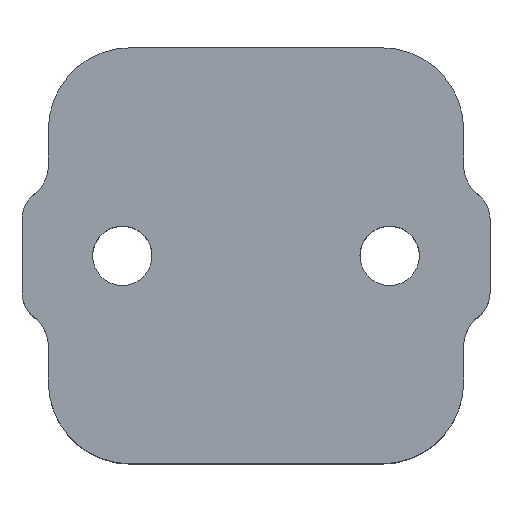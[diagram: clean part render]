
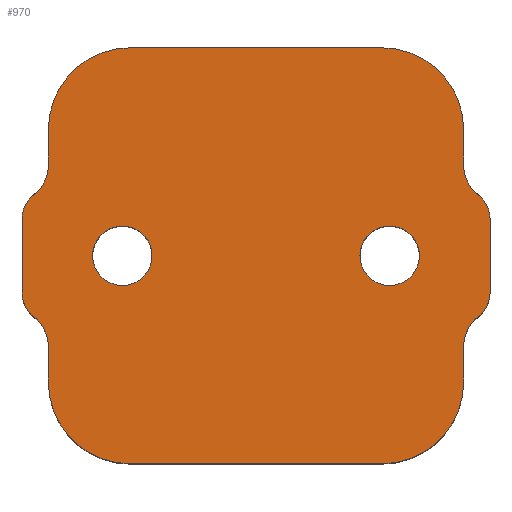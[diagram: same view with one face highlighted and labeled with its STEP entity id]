
A CAD part, top view. The second image highlights one B-rep face of the part: STEP entity #970.
In plain terms, the highlighted planar face has unit normal (0, 0, 1).
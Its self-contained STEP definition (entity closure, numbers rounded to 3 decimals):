
#90=CARTESIAN_POINT('',(0.95,2.8,3.));
#91=VERTEX_POINT('',#90);
#106=CARTESIAN_POINT('',(1.35,2.8,3.));
#107=DIRECTION('',(0.,0.,-1.));
#108=DIRECTION('',(-1.,0.,0.));
#109=AXIS2_PLACEMENT_3D('',#106,#107,#108);
#110=CIRCLE('',#109,0.4);
#111=EDGE_CURVE('',#91,#91,#110,.T.);
#123=CARTESIAN_POINT('',(4.55,2.8,3.));
#124=VERTEX_POINT('',#123);
#139=CARTESIAN_POINT('',(4.95,2.8,3.));
#140=DIRECTION('',(0.,0.,-1.));
#141=DIRECTION('',(-1.,0.,0.));
#142=AXIS2_PLACEMENT_3D('',#139,#140,#141);
#143=CIRCLE('',#142,0.4);
#144=EDGE_CURVE('',#124,#124,#143,.T.);
#154=CARTESIAN_POINT('',(6.007,3.779,3.));
#155=VERTEX_POINT('',#154);
#164=CARTESIAN_POINT('',(6.177,3.598,3.));
#165=VERTEX_POINT('',#164);
#166=CARTESIAN_POINT('',(6.445,4.02,3.));
#167=DIRECTION('',(-0.,-0.,-1.));
#168=DIRECTION('',(1.,0.,-0.));
#169=AXIS2_PLACEMENT_3D('',#166,#167,#168);
#170=CIRCLE('',#169,0.5);
#171=EDGE_CURVE('',#165,#155,#170,.T.);
#205=CARTESIAN_POINT('',(6.114,3.638,3.));
#206=VERTEX_POINT('',#205);
#207=CARTESIAN_POINT('',(6.114,3.638,3.));
#208=DIRECTION('',(0.845,-0.535,0.));
#209=VECTOR('',#208,0.075);
#210=LINE('',#207,#209);
#211=EDGE_CURVE('',#206,#165,#210,.T.);
#237=CARTESIAN_POINT('',(6.3,3.3,3.));
#238=VERTEX_POINT('',#237);
#239=CARTESIAN_POINT('',(5.9,3.3,3.));
#240=DIRECTION('',(0.,0.,1.));
#241=DIRECTION('',(1.,0.,-0.));
#242=AXIS2_PLACEMENT_3D('',#239,#240,#241);
#243=CIRCLE('',#242,0.4);
#244=EDGE_CURVE('',#238,#206,#243,.T.);
#269=CARTESIAN_POINT('',(6.3,2.3,3.));
#270=VERTEX_POINT('',#269);
#271=CARTESIAN_POINT('',(6.3,2.3,3.));
#272=DIRECTION('',(0.,1.,0.));
#273=VECTOR('',#272,1.);
#274=LINE('',#271,#273);
#275=EDGE_CURVE('',#270,#238,#274,.T.);
#301=CARTESIAN_POINT('',(6.114,1.962,3.));
#302=VERTEX_POINT('',#301);
#303=CARTESIAN_POINT('',(5.9,2.3,3.));
#304=DIRECTION('',(0.,0.,1.));
#305=DIRECTION('',(1.,0.,-0.));
#306=AXIS2_PLACEMENT_3D('',#303,#304,#305);
#307=CIRCLE('',#306,0.4);
#308=EDGE_CURVE('',#302,#270,#307,.T.);
#333=CARTESIAN_POINT('',(6.177,2.002,3.));
#334=VERTEX_POINT('',#333);
#335=CARTESIAN_POINT('',(6.177,2.002,3.));
#336=DIRECTION('',(-0.845,-0.535,0.));
#337=VECTOR('',#336,0.075);
#338=LINE('',#335,#337);
#339=EDGE_CURVE('',#334,#302,#338,.T.);
#365=CARTESIAN_POINT('',(5.945,1.58,3.));
#366=VERTEX_POINT('',#365);
#367=CARTESIAN_POINT('',(6.445,1.58,3.));
#368=DIRECTION('',(-0.,-0.,-1.));
#369=DIRECTION('',(1.,0.,-0.));
#370=AXIS2_PLACEMENT_3D('',#367,#368,#369);
#371=CIRCLE('',#370,0.5);
#372=EDGE_CURVE('',#366,#334,#371,.T.);
#397=CARTESIAN_POINT('',(5.945,1.1,3.));
#398=VERTEX_POINT('',#397);
#399=CARTESIAN_POINT('',(5.945,1.1,3.));
#400=DIRECTION('',(0.,1.,0.));
#401=VECTOR('',#400,0.48);
#402=LINE('',#399,#401);
#403=EDGE_CURVE('',#398,#366,#402,.T.);
#429=CARTESIAN_POINT('',(4.845,0.,3.));
#430=VERTEX_POINT('',#429);
#431=CARTESIAN_POINT('',(4.845,1.1,3.));
#432=DIRECTION('',(0.,0.,1.));
#433=DIRECTION('',(1.,0.,-0.));
#434=AXIS2_PLACEMENT_3D('',#431,#432,#433);
#435=CIRCLE('',#434,1.1);
#436=EDGE_CURVE('',#430,#398,#435,.T.);
#461=CARTESIAN_POINT('',(1.455,0.,3.));
#462=VERTEX_POINT('',#461);
#463=CARTESIAN_POINT('',(1.455,0.,3.));
#464=DIRECTION('',(1.,0.,-0.));
#465=VECTOR('',#464,3.39);
#466=LINE('',#463,#465);
#467=EDGE_CURVE('',#462,#430,#466,.T.);
#493=CARTESIAN_POINT('',(0.355,1.1,3.));
#494=VERTEX_POINT('',#493);
#495=CARTESIAN_POINT('',(1.455,1.1,3.));
#496=DIRECTION('',(0.,0.,1.));
#497=DIRECTION('',(1.,0.,-0.));
#498=AXIS2_PLACEMENT_3D('',#495,#496,#497);
#499=CIRCLE('',#498,1.1);
#500=EDGE_CURVE('',#494,#462,#499,.T.);
#525=CARTESIAN_POINT('',(0.355,1.58,3.));
#526=VERTEX_POINT('',#525);
#527=CARTESIAN_POINT('',(0.355,1.58,3.));
#528=DIRECTION('',(-0.,-1.,-0.));
#529=VECTOR('',#528,0.48);
#530=LINE('',#527,#529);
#531=EDGE_CURVE('',#526,#494,#530,.T.);
#557=CARTESIAN_POINT('',(0.123,2.002,3.));
#558=VERTEX_POINT('',#557);
#559=CARTESIAN_POINT('',(-0.145,1.58,3.));
#560=DIRECTION('',(-0.,-0.,-1.));
#561=DIRECTION('',(1.,0.,-0.));
#562=AXIS2_PLACEMENT_3D('',#559,#560,#561);
#563=CIRCLE('',#562,0.5);
#564=EDGE_CURVE('',#558,#526,#563,.T.);
#589=CARTESIAN_POINT('',(0.186,1.962,3.));
#590=VERTEX_POINT('',#589);
#591=CARTESIAN_POINT('',(0.186,1.962,3.));
#592=DIRECTION('',(-0.845,0.535,0.));
#593=VECTOR('',#592,0.075);
#594=LINE('',#591,#593);
#595=EDGE_CURVE('',#590,#558,#594,.T.);
#621=CARTESIAN_POINT('',(0.,2.3,3.));
#622=VERTEX_POINT('',#621);
#623=CARTESIAN_POINT('',(0.4,2.3,3.));
#624=DIRECTION('',(0.,0.,1.));
#625=DIRECTION('',(1.,0.,-0.));
#626=AXIS2_PLACEMENT_3D('',#623,#624,#625);
#627=CIRCLE('',#626,0.4);
#628=EDGE_CURVE('',#622,#590,#627,.T.);
#653=CARTESIAN_POINT('',(0.,3.3,3.));
#654=VERTEX_POINT('',#653);
#655=CARTESIAN_POINT('',(0.,3.3,3.));
#656=DIRECTION('',(-0.,-1.,-0.));
#657=VECTOR('',#656,1.);
#658=LINE('',#655,#657);
#659=EDGE_CURVE('',#654,#622,#658,.T.);
#685=CARTESIAN_POINT('',(0.186,3.638,3.));
#686=VERTEX_POINT('',#685);
#687=CARTESIAN_POINT('',(0.4,3.3,3.));
#688=DIRECTION('',(0.,0.,1.));
#689=DIRECTION('',(1.,0.,-0.));
#690=AXIS2_PLACEMENT_3D('',#687,#688,#689);
#691=CIRCLE('',#690,0.4);
#692=EDGE_CURVE('',#686,#654,#691,.T.);
#717=CARTESIAN_POINT('',(0.123,3.598,3.));
#718=VERTEX_POINT('',#717);
#719=CARTESIAN_POINT('',(0.123,3.598,3.));
#720=DIRECTION('',(0.845,0.535,0.));
#721=VECTOR('',#720,0.075);
#722=LINE('',#719,#721);
#723=EDGE_CURVE('',#718,#686,#722,.T.);
#749=CARTESIAN_POINT('',(0.355,4.02,3.));
#750=VERTEX_POINT('',#749);
#751=CARTESIAN_POINT('',(-0.145,4.02,3.));
#752=DIRECTION('',(-0.,-0.,-1.));
#753=DIRECTION('',(1.,0.,-0.));
#754=AXIS2_PLACEMENT_3D('',#751,#752,#753);
#755=CIRCLE('',#754,0.5);
#756=EDGE_CURVE('',#750,#718,#755,.T.);
#781=CARTESIAN_POINT('',(0.355,4.5,3.));
#782=VERTEX_POINT('',#781);
#783=CARTESIAN_POINT('',(0.355,4.5,3.));
#784=DIRECTION('',(-0.,-1.,-0.));
#785=VECTOR('',#784,0.48);
#786=LINE('',#783,#785);
#787=EDGE_CURVE('',#782,#750,#786,.T.);
#813=CARTESIAN_POINT('',(1.455,5.6,3.));
#814=VERTEX_POINT('',#813);
#815=CARTESIAN_POINT('',(1.455,4.5,3.));
#816=DIRECTION('',(0.,0.,1.));
#817=DIRECTION('',(1.,0.,-0.));
#818=AXIS2_PLACEMENT_3D('',#815,#816,#817);
#819=CIRCLE('',#818,1.1);
#820=EDGE_CURVE('',#814,#782,#819,.T.);
#845=CARTESIAN_POINT('',(4.845,5.6,3.));
#846=VERTEX_POINT('',#845);
#847=CARTESIAN_POINT('',(4.845,5.6,3.));
#848=DIRECTION('',(-1.,-0.,0.));
#849=VECTOR('',#848,3.39);
#850=LINE('',#847,#849);
#851=EDGE_CURVE('',#846,#814,#850,.T.);
#877=CARTESIAN_POINT('',(5.945,4.5,3.));
#878=VERTEX_POINT('',#877);
#879=CARTESIAN_POINT('',(4.845,4.5,3.));
#880=DIRECTION('',(0.,0.,1.));
#881=DIRECTION('',(1.,0.,-0.));
#882=AXIS2_PLACEMENT_3D('',#879,#880,#881);
#883=CIRCLE('',#882,1.1);
#884=EDGE_CURVE('',#878,#846,#883,.T.);
#909=CARTESIAN_POINT('',(5.945,4.02,3.));
#910=VERTEX_POINT('',#909);
#911=CARTESIAN_POINT('',(5.945,4.02,3.));
#912=DIRECTION('',(0.,1.,0.));
#913=VECTOR('',#912,0.48);
#914=LINE('',#911,#913);
#915=EDGE_CURVE('',#910,#878,#914,.T.);
#926=CARTESIAN_POINT('',(3.15,2.8,3.));
#927=DIRECTION('',(0.,0.,1.));
#928=DIRECTION('',(1.,0.,0.));
#929=AXIS2_PLACEMENT_3D('',#926,#927,#928);
#930=PLANE('',#929);
#931=ORIENTED_EDGE('',*,*,#915,.T.);
#932=ORIENTED_EDGE('',*,*,#884,.T.);
#933=ORIENTED_EDGE('',*,*,#851,.T.);
#934=ORIENTED_EDGE('',*,*,#820,.T.);
#935=ORIENTED_EDGE('',*,*,#787,.T.);
#936=ORIENTED_EDGE('',*,*,#756,.T.);
#937=ORIENTED_EDGE('',*,*,#723,.T.);
#938=ORIENTED_EDGE('',*,*,#692,.T.);
#939=ORIENTED_EDGE('',*,*,#659,.T.);
#940=ORIENTED_EDGE('',*,*,#628,.T.);
#941=ORIENTED_EDGE('',*,*,#595,.T.);
#942=ORIENTED_EDGE('',*,*,#564,.T.);
#943=ORIENTED_EDGE('',*,*,#531,.T.);
#944=ORIENTED_EDGE('',*,*,#500,.T.);
#945=ORIENTED_EDGE('',*,*,#467,.T.);
#946=ORIENTED_EDGE('',*,*,#436,.T.);
#947=ORIENTED_EDGE('',*,*,#403,.T.);
#948=ORIENTED_EDGE('',*,*,#372,.T.);
#949=ORIENTED_EDGE('',*,*,#339,.T.);
#950=ORIENTED_EDGE('',*,*,#308,.T.);
#951=ORIENTED_EDGE('',*,*,#275,.T.);
#952=ORIENTED_EDGE('',*,*,#244,.T.);
#953=ORIENTED_EDGE('',*,*,#211,.T.);
#954=ORIENTED_EDGE('',*,*,#171,.T.);
#955=CARTESIAN_POINT('',(6.445,4.02,3.));
#956=DIRECTION('',(-0.,-0.,-1.));
#957=DIRECTION('',(1.,0.,-0.));
#958=AXIS2_PLACEMENT_3D('',#955,#956,#957);
#959=CIRCLE('',#958,0.5);
#960=EDGE_CURVE('',#155,#910,#959,.T.);
#961=ORIENTED_EDGE('',*,*,#960,.T.);
#962=EDGE_LOOP('',(#931,#932,#933,#934,#935,#936,#937,#938,#939,#940,#941,#942,#943,#944,#945,#946,#947,#948,#949,#950,#951,#952,#953,#954,#961));
#963=FACE_BOUND('',#962,.T.);
#964=ORIENTED_EDGE('',*,*,#111,.T.);
#965=EDGE_LOOP('',(#964));
#966=FACE_BOUND('',#965,.T.);
#967=ORIENTED_EDGE('',*,*,#144,.T.);
#968=EDGE_LOOP('',(#967));
#969=FACE_BOUND('',#968,.T.);
#970=ADVANCED_FACE('',(#963,#966,#969),#930,.T.);
